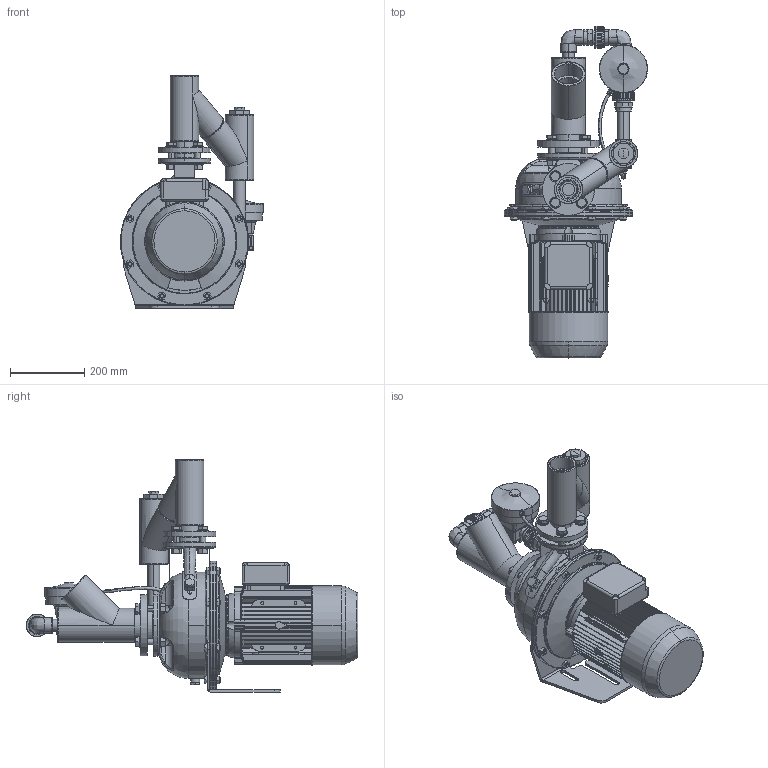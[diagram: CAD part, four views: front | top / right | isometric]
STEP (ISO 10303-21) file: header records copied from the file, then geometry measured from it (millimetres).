
FILE_DESCRIPTION (( 'STEP AP203' ), '1' );
FILE_NAME ('Lowara SHE 32-250 z.a.z auto. by-pass.STEP', '2011-04-06T08:00:47', ( '' ), ( '' ), 'SwSTEP 2.0', 'SolidWorks 2010', '' );
FILE_SCHEMA (( 'CONFIG_CONTROL_DESIGN' ));
Products named in the file (1): Lowara SHE 32-250 z.a.z auto. by-pass
Bounding box: 385.5 x 893.44 x 625.8 mm (x, y, z)
Volume: 25618767.8 mm3; surface area: 2358497.2 mm2
Topology: 65 solids, 67 shells, 2875 faces, 7262 edges, 4512 vertices
Faces by surface type: plane 1092, cylinder 894, cone 473, bspline 369, torus 47
Entity records: 119224 total; most frequent: CARTESIAN_POINT 54034, ORIENTED_EDGE 14284, DIRECTION 12752, EDGE_CURVE 7142, AXIS2_PLACEMENT_3D 5044, VERTEX_POINT 4516, EDGE_LOOP 3154, FACE_OUTER_BOUND 2875
